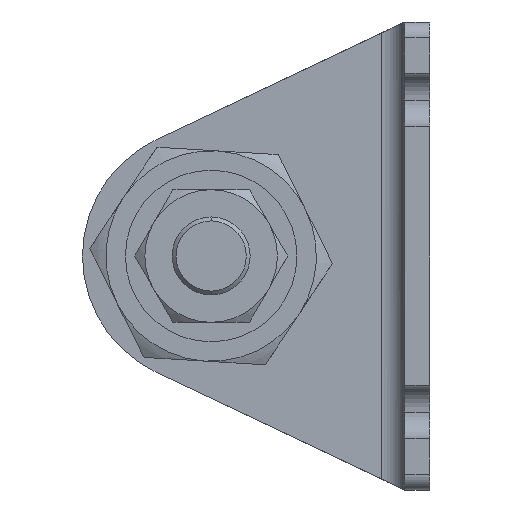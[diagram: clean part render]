
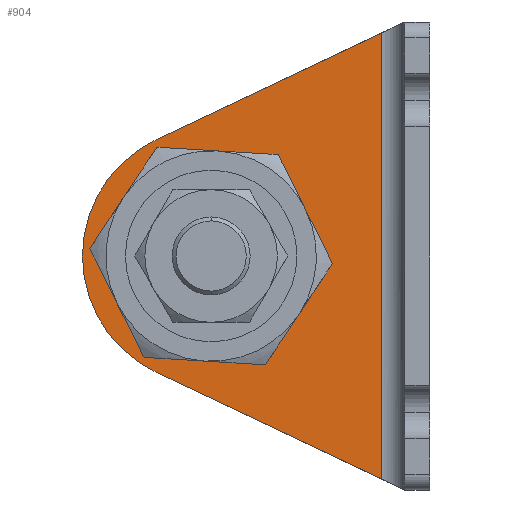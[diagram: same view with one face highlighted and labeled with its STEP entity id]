
A CAD part, left-side view. The second image highlights one B-rep face of the part: STEP entity #904.
In plain terms, the highlighted planar face has unit normal (-1, 0, 0) as drawn and (1, 0, 0) by its records, which use the part's own axes.
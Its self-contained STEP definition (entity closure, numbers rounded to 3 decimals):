
#113 = VECTOR ( 'NONE', #2410, 1000. ) ;
#213 = DIRECTION ( 'NONE',  ( 1., 0., 0. ) ) ;
#291 = EDGE_LOOP ( 'NONE', ( #1779, #1714, #2711, #1715, #3933 ) ) ;
#356 = VECTOR ( 'NONE', #3890, 1000. ) ;
#409 = CARTESIAN_POINT ( 'NONE',  ( 3.2, 35.062, -15.087 ) ) ;
#410 = VERTEX_POINT ( 'NONE', #3599 ) ;
#501 = VERTEX_POINT ( 'NONE', #1093 ) ;
#521 = VERTEX_POINT ( 'NONE', #409 ) ;
#558 = PLANE ( 'NONE',  #1869 ) ;
#588 = CARTESIAN_POINT ( 'NONE',  ( 3.2, 44.5, -30. ) ) ;
#879 = EDGE_CURVE ( 'NONE', #3013, #4099, #3420, .T. ) ;
#904 = ADVANCED_FACE ( 'NONE', ( #3196, #3743 ), #558, .T. ) ;
#970 = AXIS2_PLACEMENT_3D ( 'NONE', #2938, #1034, #3265 ) ;
#1002 = EDGE_CURVE ( 'NONE', #410, #1122, #1742, .T. ) ;
#1034 = DIRECTION ( 'NONE',  ( 1., 0., 0. ) ) ;
#1093 = CARTESIAN_POINT ( 'NONE',  ( 3.2, 6.2, -58.579 ) ) ;
#1117 = CARTESIAN_POINT ( 'NONE',  ( 3.2, 16.5, -30. ) ) ;
#1122 = VERTEX_POINT ( 'NONE', #1117 ) ;
#1123 = LINE ( 'NONE', #3289, #1675 ) ;
#1243 = EDGE_CURVE ( 'NONE', #1122, #410, #3735, .T. ) ;
#1279 = AXIS2_PLACEMENT_3D ( 'NONE', #3732, #2918, #2992 ) ;
#1372 = CARTESIAN_POINT ( 'NONE',  ( 3.2, 6.2, -60. ) ) ;
#1417 = CARTESIAN_POINT ( 'NONE',  ( 3.2, 28., -30. ) ) ;
#1461 = CIRCLE ( 'NONE', #4269, 16.5 ) ;
#1658 = EDGE_LOOP ( 'NONE', ( #2706, #2768 ) ) ;
#1675 = VECTOR ( 'NONE', #3558, 1000. ) ;
#1714 = ORIENTED_EDGE ( 'NONE', *, *, #1954, .T. ) ;
#1715 = ORIENTED_EDGE ( 'NONE', *, *, #879, .T. ) ;
#1742 = CIRCLE ( 'NONE', #970, 11.5 ) ;
#1779 = ORIENTED_EDGE ( 'NONE', *, *, #2714, .F. ) ;
#1869 = AXIS2_PLACEMENT_3D ( 'NONE', #4030, #3260, #2163 ) ;
#1954 = EDGE_CURVE ( 'NONE', #3619, #501, #4045, .T. ) ;
#1998 = DIRECTION ( 'NONE',  ( 1., 0., 0. ) ) ;
#2163 = DIRECTION ( 'NONE',  ( 0., 1., 0. ) ) ;
#2410 = DIRECTION ( 'NONE',  ( 0., 0.904, -0.428 ) ) ;
#2539 = EDGE_CURVE ( 'NONE', #4099, #521, #1461, .T. ) ;
#2557 = EDGE_CURVE ( 'NONE', #501, #3013, #1123, .T. ) ;
#2561 = DIRECTION ( 'NONE',  ( 0., 1., 0. ) ) ;
#2706 = ORIENTED_EDGE ( 'NONE', *, *, #1002, .F. ) ;
#2711 = ORIENTED_EDGE ( 'NONE', *, *, #2557, .T. ) ;
#2714 = EDGE_CURVE ( 'NONE', #3619, #521, #3778, .T. ) ;
#2768 = ORIENTED_EDGE ( 'NONE', *, *, #1243, .F. ) ;
#2874 = CARTESIAN_POINT ( 'NONE',  ( 3.2, 28., -30. ) ) ;
#2918 = DIRECTION ( 'NONE',  ( 1., 0., 0. ) ) ;
#2938 = CARTESIAN_POINT ( 'NONE',  ( 3.2, 28., -30. ) ) ;
#2992 = DIRECTION ( 'NONE',  ( 0., 1., 0. ) ) ;
#3013 = VERTEX_POINT ( 'NONE', #3709 ) ;
#3091 = CARTESIAN_POINT ( 'NONE',  ( 3.2, 6.2, -1.421 ) ) ;
#3114 = AXIS2_PLACEMENT_3D ( 'NONE', #1417, #1998, #2561 ) ;
#3196 = FACE_OUTER_BOUND ( 'NONE', #291, .T. ) ;
#3260 = DIRECTION ( 'NONE',  ( 1., 0., 0. ) ) ;
#3265 = DIRECTION ( 'NONE',  ( 0., 1., 0. ) ) ;
#3289 = CARTESIAN_POINT ( 'NONE',  ( 3.2, 3.2, -60. ) ) ;
#3420 = CIRCLE ( 'NONE', #1279, 16.5 ) ;
#3558 = DIRECTION ( 'NONE',  ( 0., 0.904, 0.428 ) ) ;
#3599 = CARTESIAN_POINT ( 'NONE',  ( 3.2, 39.5, -30. ) ) ;
#3619 = VERTEX_POINT ( 'NONE', #3091 ) ;
#3709 = CARTESIAN_POINT ( 'NONE',  ( 3.2, 35.062, -44.913 ) ) ;
#3732 = CARTESIAN_POINT ( 'NONE',  ( 3.2, 28., -30. ) ) ;
#3735 = CIRCLE ( 'NONE', #3114, 11.5 ) ;
#3743 = FACE_BOUND ( 'NONE', #1658, .T. ) ;
#3778 = LINE ( 'NONE', #3918, #113 ) ;
#3890 = DIRECTION ( 'NONE',  ( 0., 0., -1. ) ) ;
#3918 = CARTESIAN_POINT ( 'NONE',  ( 3.2, 26.408, -10.99 ) ) ;
#3933 = ORIENTED_EDGE ( 'NONE', *, *, #2539, .T. ) ;
#4030 = CARTESIAN_POINT ( 'NONE',  ( 3.2, 3.2, -60. ) ) ;
#4045 = LINE ( 'NONE', #1372, #356 ) ;
#4059 = DIRECTION ( 'NONE',  ( 0., 1., 0. ) ) ;
#4099 = VERTEX_POINT ( 'NONE', #588 ) ;
#4269 = AXIS2_PLACEMENT_3D ( 'NONE', #2874, #213, #4059 ) ;
